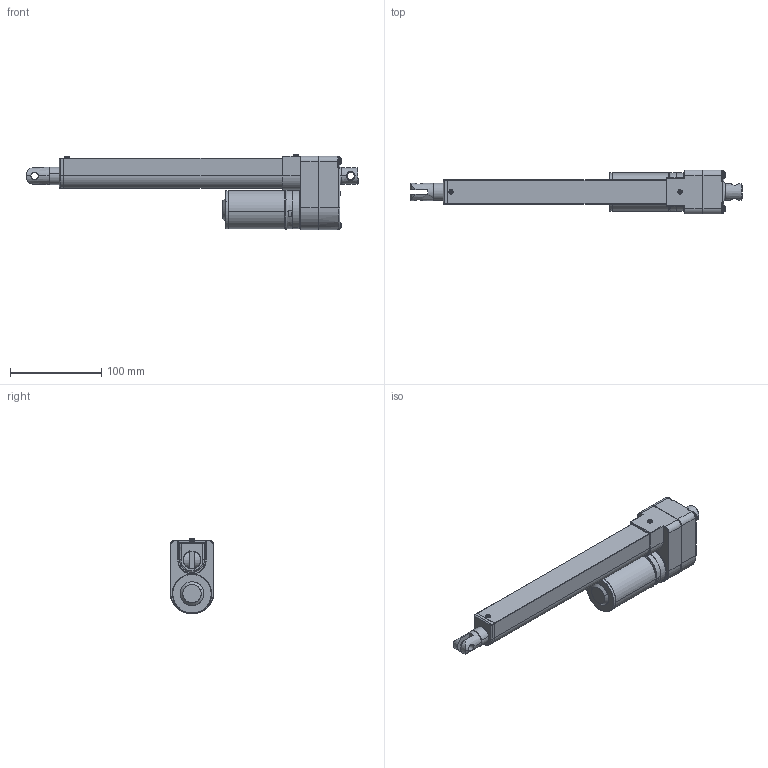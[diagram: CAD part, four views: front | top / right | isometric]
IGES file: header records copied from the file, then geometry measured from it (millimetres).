
Start section: SolidWorks IGES file using analytic representation for surfaces
Global section: file name: S:\W110B\La_3D\LAS2\LAS2ｲﾕｦXｹﾏ_Stroke=200.IGS; native system: SolidWorks 2009; preprocessor: SolidWorks 2009; author: fang; date: 110518.171115; units: millimetre
Bounding box: 363.4 x 48 x 82.79 mm (x, y, z)
Surface area: 89194.5 mm2 (no closed solid volume)
Topology: 0 solids, 0 shells, 400 faces, 6198 edges, 6182 vertices
Faces by surface type: bspline 284, revolution 116
